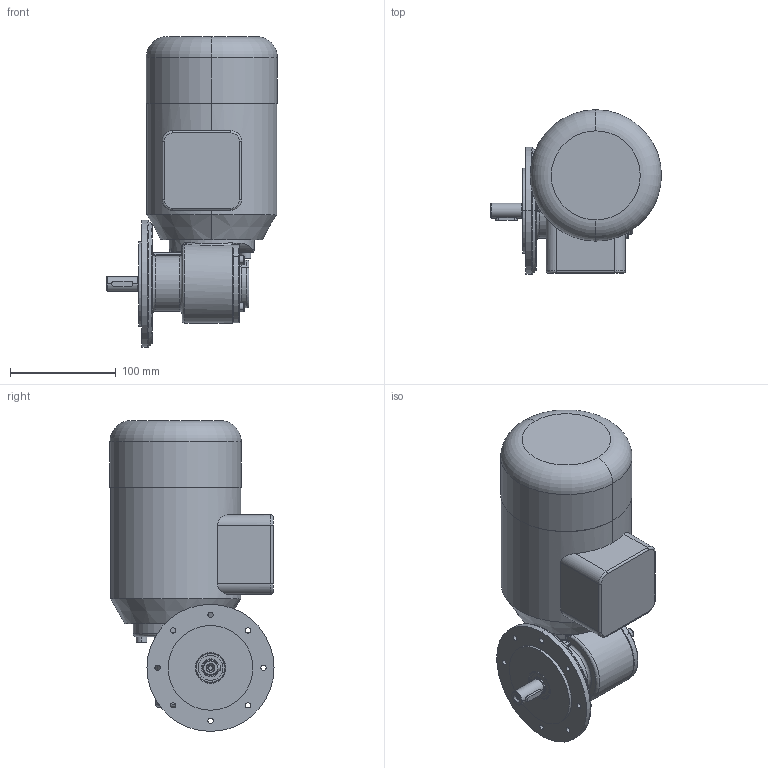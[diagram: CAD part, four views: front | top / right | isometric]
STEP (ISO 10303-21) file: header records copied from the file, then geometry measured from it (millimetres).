
FILE_DESCRIPTION (( 'STEP AP214' ), '1' );
FILE_NAME ('SN3FL_120W_180W_250W_A.STEP', '2021-03-16T11:08:18', ( '' ), ( '' ), 'SwSTEP 2.0', 'SolidWorks 2019', '' );
FILE_SCHEMA (( 'AUTOMOTIVE_DESIGN' ));
Length unit declared in the file: millimetre
Products named in the file (1): SN3FL_120W_180W_250W_A
Bounding box: 161.4 x 155 x 293.5 mm (x, y, z)
Surface area: 162006.4 mm2 (no closed solid volume)
Topology: 0 solids, 16 shells, 264 faces, 732 edges, 456 vertices
Faces by surface type: plane 93, cylinder 86, cone 44, torus 37, bspline 4
Entity records: 11902 total; most frequent: CARTESIAN_POINT 2180, DIRECTION 1541, ORIENTED_EDGE 1269, EDGE_CURVE 718, AXIS2_PLACEMENT_3D 607, VERTEX_POINT 456, CIRCLE 346, VECTOR 327
